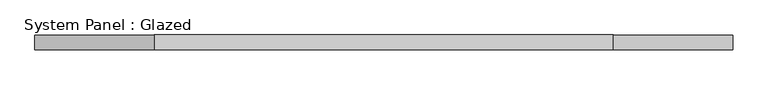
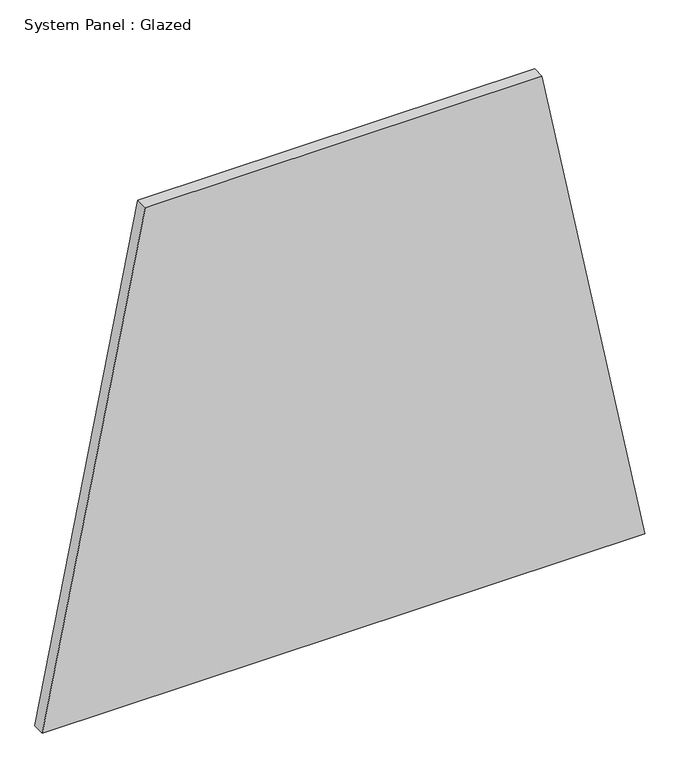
"""IFC4 building model written with IfcOpenShell, lengths in millimetres: plate geometry, System Panel : Glazed."""

from ifc_helpers import new_model, si_unit, frame, origin, place, context, project, spatial, polyline, outline, extrude, source, transform, mapped, element, save


def system_panel_glazed_000dc080(model_context):
    return source(origin(), model_context, "Body", "SweptSolid", [
        extrude(outline(polyline([(0.0, -607.0671931), (0.0, 607.0671931), (1046.4593025, 399.7385452), (1046.4593025, -399.7385452), (0.0, -607.0671931)])), frame((0.0, -44.45, 0.0), z_axis=(0.0, 1.0, 0.0), x_axis=(0.0, 0.0, 1.0)), (0.0, 0.0, 1.0), 25.4),
    ])


if __name__ == "__main__":
    model = new_model("IFC4")
    model_context = context("Model", 3, world=origin())
    ifc_project = project(units=[si_unit("LENGTHUNIT", "METRE", prefix="MILLI")], contexts=[model_context])
    site = spatial("IfcSite", under=ifc_project)
    building = spatial("IfcBuilding", under=site)
    placement = place(None, origin())
    system_panel_glazed_shape = system_panel_glazed_000dc080(model_context)
    element("IfcPlate", 1, ObjectType="System Panel : Glazed", at=placement, inside=building, context=model_context, shape_type="MappedRepresentation", body=[
        mapped(system_panel_glazed_shape, transform((0.0, 0.0, 0.0), x_axis=(1.0, 0.0, 0.0), y_axis=(0.0, 1.0, 0.0), z_axis=(0.0, 0.0, 1.0))),
    ])
    save(model, "model.ifc")
